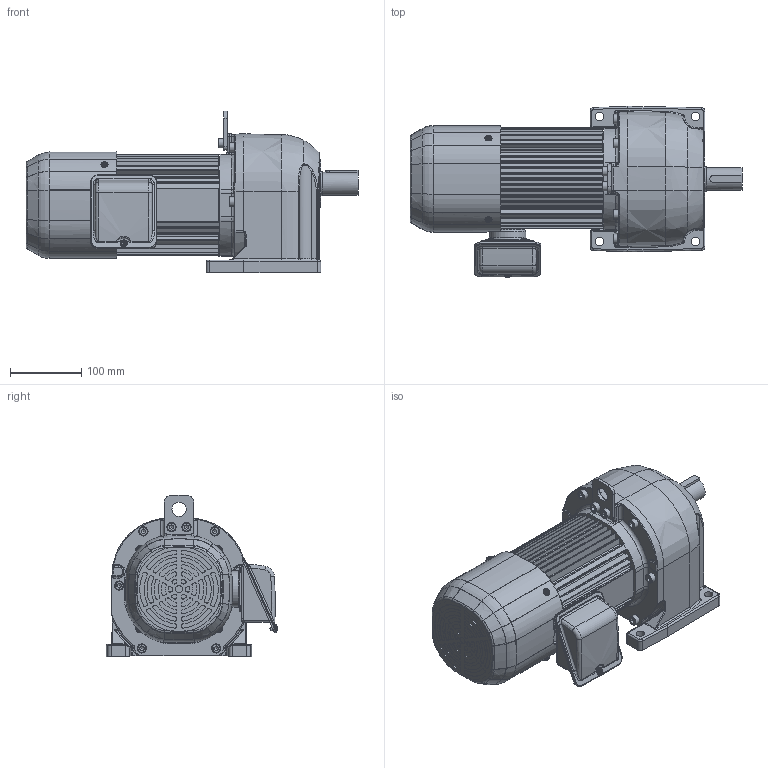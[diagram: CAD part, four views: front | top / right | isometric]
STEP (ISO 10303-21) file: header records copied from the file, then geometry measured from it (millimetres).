
FILE_DESCRIPTION( ( 'Unknown' ), '1' );
FILE_NAME( 'X:/gear/gm/3D-WEB/IE3/SP/ﾊﾟｰﾂ/完成品/spb_075_60-100.stp', 'Unknown', ( 'Unknown' ), ( 'Unknown' ), 'PSStep 14.0', 'Unknown', ' ' );
FILE_SCHEMA( ( 'AUTOMOTIVE_DESIGN { 1 0 10303 214 1 1 1 1 }' ) );
Length unit declared in the file: millimetre
Products named in the file (3): P164377_Gｹｰｽ(G32)
Bounding box: 465.5 x 240.35 x 227 mm (x, y, z)
Volume: 6392931.2 mm3; surface area: 724691.2 mm2
Topology: 3 solids, 29 shells, 1759 faces, 4403 edges, 2794 vertices
Faces by surface type: cylinder 746, plane 631, torus 157, bspline 138, cone 73, sphere 14
Full cylindrical faces by diameter (mm): 3.8 x6, 4.2 x8, 4.8 x1, 5.5 x4, 5.6 x1, 5.8 x4, 6 x8, 6.8 x11, 7 x7, 8 x14, 8.2 x1, 8.5 x2, 9 x8, 10 x14, 12 x4, 13 x8, 20 x1, 23 x1, 25 x3, 26 x1, 28.6 x1, 30 x1, 32 x1, 34 x1, 34.5 x1, 35 x1, 38 x1, 46 x1, 47 x3, 48 x2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
Entity records: 79913 total; most frequent: CARTESIAN_POINT 24459, DIRECTION 9163, ORIENTED_EDGE 8150, EDGE_CURVE 4075, AXIS2_PLACEMENT_3D 3688, VERTEX_POINT 2704, EDGE_LOOP 2106, CIRCLE 2046
